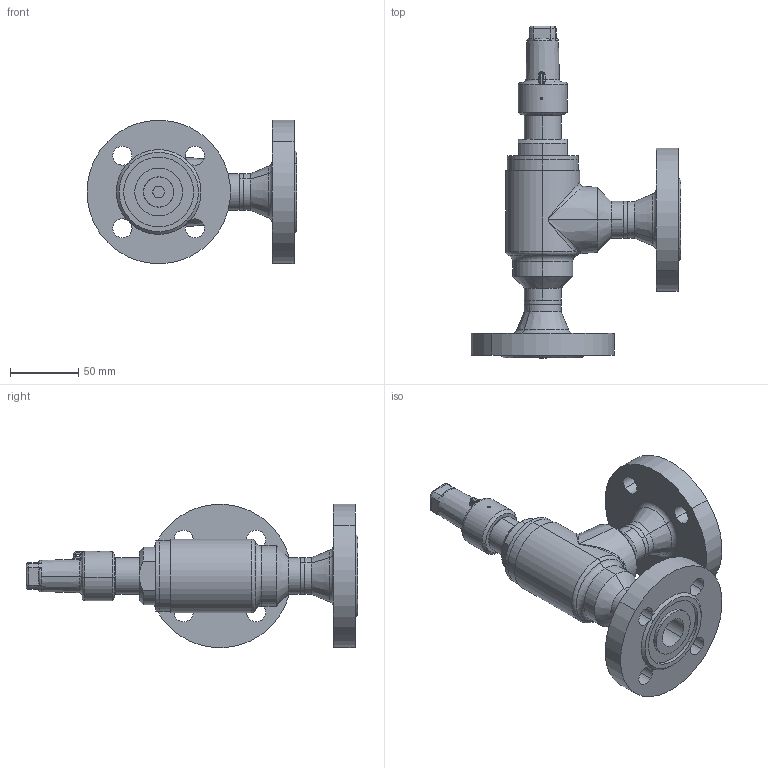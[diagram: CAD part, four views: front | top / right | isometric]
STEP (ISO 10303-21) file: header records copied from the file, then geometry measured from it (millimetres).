
FILE_DESCRIPTION (( 'STEP AP214' ), '1' );
FILE_NAME ('UVA 41220c11-DN20_DIN-FL.STEP', '2009-02-11T08:15:12', ( 'Eckhard Grams' ), ( 'AWP Kälte Klima Armaturen GmbH' ), 'SwSTEP 2.0', 'SolidWorks 2002296', '' );
FILE_SCHEMA (( 'AUTOMOTIVE_DESIGN' ));
Length unit declared in the file: millimetre
Products named in the file (8): UVA 41220c11-DN20_DIN-FL; Geh,kpl 41220E11-DN20_DIN-FL_PS40_Standard; Gehäuse41200E11-DN20_PS40_R1_Standard; Flansch-DIN2635-Nut_PS40_DIN-Flansch-DN020_PS40-Nut; bead Geh.kpl 41220-11-2_Standard; bead Geh.kpl 41220-11-1_Standard; Deckel 44353-11-DN20-32_PS40_Standard; Kappe 36302-10_DN6-15 (M27x1)_Standard
Assembly tree (8 placements, depth 3):
  UVA 41220c11-DN20_DIN-FL
    Deckel 44353-11-DN20-32_PS40_Standard
    Geh,kpl 41220E11-DN20_DIN-FL_PS40_Standard
      Flansch-DIN2635-Nut_PS40_DIN-Flansch-DN020_PS40-Nut  x2
      Gehäuse41200E11-DN20_PS40_R1_Standard
      bead Geh.kpl 41220-11-1_Standard
      bead Geh.kpl 41220-11-2_Standard
    Kappe 36302-10_DN6-15 (M27x1)_Standard
Bounding box: 153.3 x 242.75 x 104.6 mm (x, y, z)
Volume: 459105.3 mm3; surface area: 117040.7 mm2
Topology: 7 solids, 7 shells, 274 faces, 636 edges, 386 vertices
Faces by surface type: cylinder 113, cone 54, plane 52, torus 32, bspline 23
Entity records: 25771 total; most frequent: CARTESIAN_POINT 19443, DIRECTION 1189, ORIENTED_EDGE 1108, EDGE_CURVE 554, AXIS2_PLACEMENT_3D 511, VERTEX_POINT 334, CIRCLE 280, EDGE_LOOP 276
